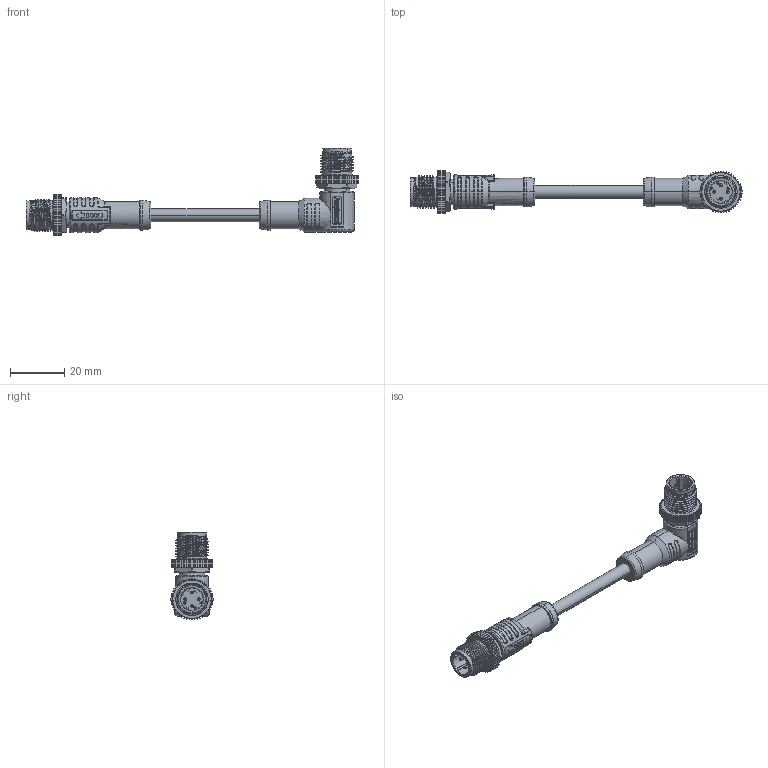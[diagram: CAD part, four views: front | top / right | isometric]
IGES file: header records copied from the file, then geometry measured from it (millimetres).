
Start section:  PTC IGES file: msdp04ml-sdpmr-sdxxx_sw0001.igs
Global section: file name: msdp04ml-sdpmr-sdxxx_sw0001.igs; native system: Creo Parametric by Parametric Technology Corporation; preprocessor: 2017170; author: L190015; organization: Unknown; date: 20190927.171741; units: millimetre
Bounding box: 122.35 x 15.5 x 32.4 mm (x, y, z)
Surface area: 8323.4 mm2 (no closed solid volume)
Topology: 0 solids, 0 shells, 1712 faces, 8856 edges, 8856 vertices
Faces by surface type: bspline 1002, revolution 586, extrusion 124
